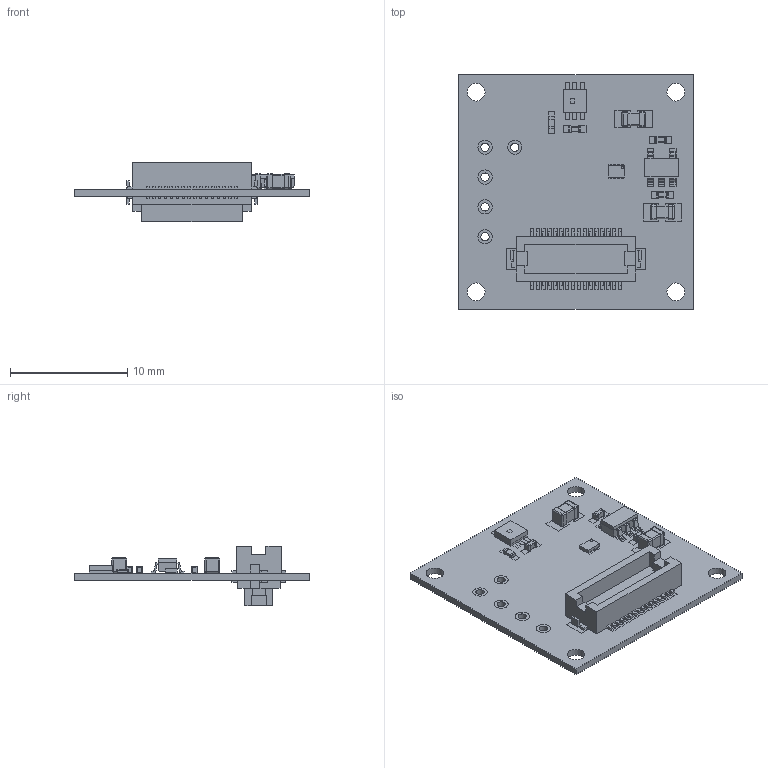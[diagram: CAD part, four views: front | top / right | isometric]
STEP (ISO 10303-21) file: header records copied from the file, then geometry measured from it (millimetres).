
FILE_DESCRIPTION(('FreeCAD Model'),'2;1');
FILE_NAME('/home/devy/MEGA/TinyCircuits/Assets/BoardsANDBoardModels_2/Shields/TinyCircuits-TinyShield-Ambient_Light-ASD2811/cad/TinyShield_AMBIENT_LIGHT_ASD2811_REV2-STEP.step','2020-07-20T13:16:21',('Author'),( ''),'Open CASCADE STEP processor 7.4','FreeCAD','Unknown');
FILE_SCHEMA(('AUTOMOTIVE_DESIGN { 1 0 10303 214 1 1 1 1 }'));
Products named in the file (1): TinyShield_AMBIENT_LIGHT_ASD2811_REV2-STEP
Bounding box: 20 x 20 x 5.1 mm (x, y, z)
Volume: 598.7 mm3; surface area: 2300.5 mm2
Topology: 174 solids, 174 shells, 1758 faces, 4436 edges, 3422 vertices
Faces by surface type: plane 1523, cylinder 185, sphere 40, revolution 10
Full cylindrical faces by diameter (mm): 0.5 x4, 0.602 x8, 0.702 x25, 1.208 x15, 1.502 x8
Entity records: 119310 total; most frequent: CARTESIAN_POINT 19286, DIRECTION 15868, LINE 11050, VECTOR 11050, ORIENTED_EDGE 7880, PCURVE 7880, DEFINITIONAL_REPRESENTATION 7880, EDGE_CURVE 3940
